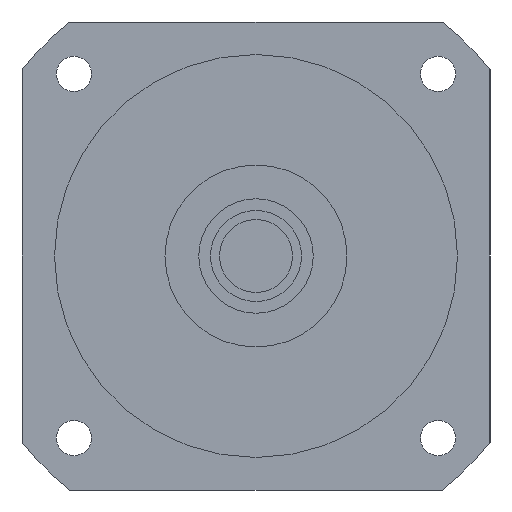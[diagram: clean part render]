
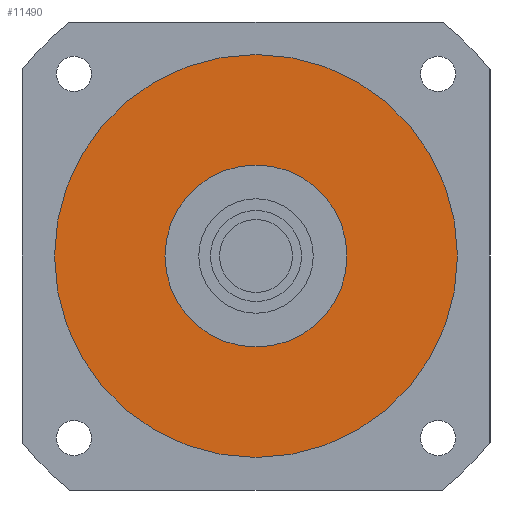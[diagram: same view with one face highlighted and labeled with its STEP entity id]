
A CAD part, left-side view. The second image highlights one B-rep face of the part: STEP entity #11490.
In plain terms, the highlighted planar face has unit normal (-1, 0, 0) as drawn and (0, 0, -1) by its records, which use the part's own axes.
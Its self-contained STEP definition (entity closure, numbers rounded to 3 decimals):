
#10930=CARTESIAN_POINT('',(-35.,0.,-84.7));
#10940=VERTEX_POINT('',#10930);
#10970=CARTESIAN_POINT('',(0.,0.,
-84.7));
#10980=DIRECTION('',(0.,0.,1.));
#10990=DIRECTION('',(0.,1.,0.));
#11000=AXIS2_PLACEMENT_3D('',#10970,#10980,#10990);
#11010=CIRCLE('',#11000,35.);
#11020=CARTESIAN_POINT('',(35.,0.,-84.7));
#11030=VERTEX_POINT('',#11020);
#11040=EDGE_CURVE('',#10940,#11030,#11010,.T.);
#11160=CARTESIAN_POINT('',(0.,0.,
-84.7));
#11170=DIRECTION('',(0.,0.,1.));
#11180=DIRECTION('',(-1.,0.,0.));
#11190=AXIS2_PLACEMENT_3D('',#11160,#11170,#11180);
#11200=PLANE('',#11190);
#11210=CARTESIAN_POINT('',(0.,0.,
-84.7));
#11220=DIRECTION('',(0.,0.,1.));
#11230=DIRECTION('',(0.,1.,0.));
#11240=AXIS2_PLACEMENT_3D('',#11210,#11220,#11230);
#11250=CIRCLE('',#11240,77.5);
#11260=CARTESIAN_POINT('',(0.,77.5,-84.7));
#11270=VERTEX_POINT('',#11260);
#11280=CARTESIAN_POINT('',(-77.5,0.,-84.7));
#11290=VERTEX_POINT('',#11280);
#11300=EDGE_CURVE('',#11270,#11290,#11250,.T.);
#11310=ORIENTED_EDGE('',*,*,#11300,.F.);
#11320=CARTESIAN_POINT('',(77.5,0.,-84.7));
#11330=VERTEX_POINT('',#11320);
#11340=EDGE_CURVE('',#11290,#11330,#11250,.T.);
#11350=ORIENTED_EDGE('',*,*,#11340,.F.);
#11360=EDGE_CURVE('',#11330,#11270,#11250,.T.);
#11370=ORIENTED_EDGE('',*,*,#11360,.F.);
#11380=EDGE_LOOP('',(#11370,#11350,#11310));
#11390=FACE_OUTER_BOUND('',#11380,.T.);
#11400=ORIENTED_EDGE('',*,*,#11040,.T.);
#11410=CARTESIAN_POINT('',(0.,35.,-84.7));
#11420=VERTEX_POINT('',#11410);
#11430=EDGE_CURVE('',#11420,#10940,#11010,.T.);
#11440=ORIENTED_EDGE('',*,*,#11430,.T.);
#11450=EDGE_CURVE('',#11030,#11420,#11010,.T.);
#11460=ORIENTED_EDGE('',*,*,#11450,.T.);
#11470=EDGE_LOOP('',(#11460,#11440,#11400));
#11480=FACE_BOUND('',#11470,.T.);
#11490=ADVANCED_FACE('',(#11390,#11480),#11200,.F.);
